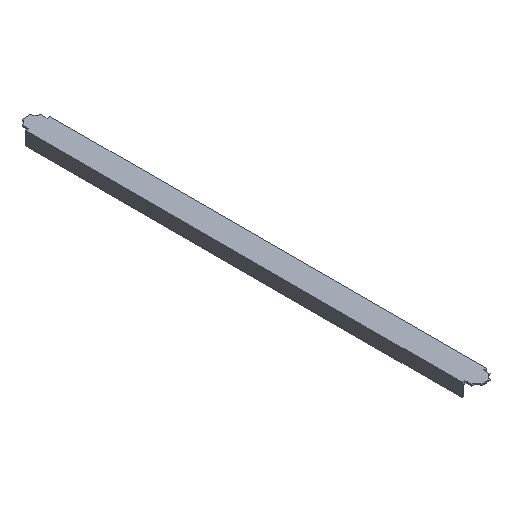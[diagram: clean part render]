
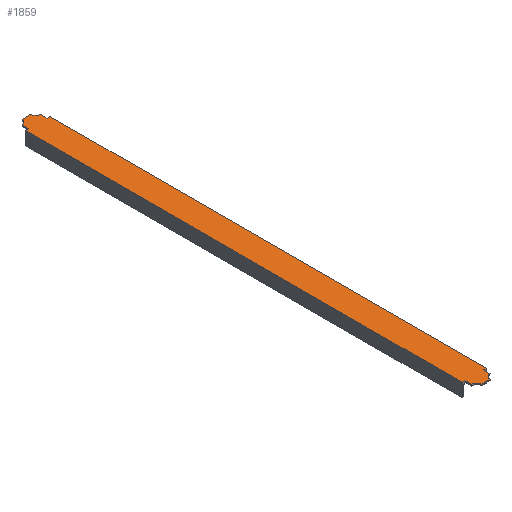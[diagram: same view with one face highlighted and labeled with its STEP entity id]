
A CAD part, isometric view. The second image highlights one B-rep face of the part: STEP entity #1859.
In plain terms, the highlighted planar face has unit normal (0, 0, 1).
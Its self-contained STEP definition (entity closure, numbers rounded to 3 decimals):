
#3 = VERTEX_POINT ( 'NONE', #1360 ) ;
#61 = EDGE_CURVE ( 'NONE', #3127, #3560, #2925, .T. ) ;
#73 = VERTEX_POINT ( 'NONE', #3265 ) ;
#136 = ORIENTED_EDGE ( 'NONE', *, *, #2827, .F. ) ;
#168 = CARTESIAN_POINT ( 'NONE',  ( -38., 15., 1940. ) ) ;
#196 = DIRECTION ( 'NONE',  ( 0., -1., 0. ) ) ;
#199 = CARTESIAN_POINT ( 'NONE',  ( -28., 1895., 1940. ) ) ;
#223 = DIRECTION ( 'NONE',  ( 0., 0., 1. ) ) ;
#245 = CARTESIAN_POINT ( 'NONE',  ( -50., 1848., 1940. ) ) ;
#251 = EDGE_CURVE ( 'NONE', #3018, #836, #3208, .T. ) ;
#269 = AXIS2_PLACEMENT_3D ( 'NONE', #3161, #1548, #2607 ) ;
#302 = LINE ( 'NONE', #3355, #2238 ) ;
#334 = CIRCLE ( 'NONE', #2362, 20. ) ;
#344 = ORIENTED_EDGE ( 'NONE', *, *, #3503, .F. ) ;
#371 = ORIENTED_EDGE ( 'NONE', *, *, #1311, .F. ) ;
#375 = ORIENTED_EDGE ( 'NONE', *, *, #1216, .F. ) ;
#411 = LINE ( 'NONE', #2893, #1603 ) ;
#420 = CARTESIAN_POINT ( 'NONE',  ( 38., 1895., 1940. ) ) ;
#431 = LINE ( 'NONE', #1530, #2291 ) ;
#445 = CARTESIAN_POINT ( 'NONE',  ( -50., 1848., 1940. ) ) ;
#450 = VECTOR ( 'NONE', #1568, 1000. ) ;
#451 = EDGE_CURVE ( 'NONE', #1241, #73, #1617, .T. ) ;
#466 = CARTESIAN_POINT ( 'NONE',  ( 28., 5., 1940. ) ) ;
#500 = DIRECTION ( 'NONE',  ( 0., -1., 0. ) ) ;
#508 = ORIENTED_EDGE ( 'NONE', *, *, #61, .F. ) ;
#525 = FACE_OUTER_BOUND ( 'NONE', #2179, .T. ) ;
#526 = LINE ( 'NONE', #739, #2464 ) ;
#558 = VERTEX_POINT ( 'NONE', #1935 ) ;
#588 = VERTEX_POINT ( 'NONE', #3462 ) ;
#623 = EDGE_CURVE ( 'NONE', #1384, #3436, #2354, .T. ) ;
#631 = CARTESIAN_POINT ( 'NONE',  ( -18., 1895., 1940. ) ) ;
#722 = LINE ( 'NONE', #199, #738 ) ;
#730 = LINE ( 'NONE', #168, #1897 ) ;
#738 = VECTOR ( 'NONE', #1295, 1000. ) ;
#739 = CARTESIAN_POINT ( 'NONE',  ( -50., 1900., 1940. ) ) ;
#761 = VERTEX_POINT ( 'NONE', #3461 ) ;
#767 = CARTESIAN_POINT ( 'NONE',  ( 38., 52., 1940. ) ) ;
#795 = ORIENTED_EDGE ( 'NONE', *, *, #1236, .F. ) ;
#812 = CARTESIAN_POINT ( 'NONE',  ( -50., 52., 1940. ) ) ;
#819 = EDGE_CURVE ( 'NONE', #836, #2813, #730, .T. ) ;
#836 = VERTEX_POINT ( 'NONE', #1212 ) ;
#932 = DIRECTION ( 'NONE',  ( 0., -1., 0. ) ) ;
#980 = ORIENTED_EDGE ( 'NONE', *, *, #819, .F. ) ;
#1023 = ORIENTED_EDGE ( 'NONE', *, *, #1614, .T. ) ;
#1079 = CIRCLE ( 'NONE', #2878, 20. ) ;
#1116 = DIRECTION ( 'NONE',  ( -1., 0., 0. ) ) ;
#1152 = CARTESIAN_POINT ( 'NONE',  ( -38., 52., 1940. ) ) ;
#1212 = CARTESIAN_POINT ( 'NONE',  ( -38., 25., 1940. ) ) ;
#1213 = LINE ( 'NONE', #466, #450 ) ;
#1216 = EDGE_CURVE ( 'NONE', #73, #1384, #1829, .T. ) ;
#1236 = EDGE_CURVE ( 'NONE', #558, #3018, #1213, .T. ) ;
#1241 = VERTEX_POINT ( 'NONE', #445 ) ;
#1289 = CARTESIAN_POINT ( 'NONE',  ( -18., 5., 1940. ) ) ;
#1295 = DIRECTION ( 'NONE',  ( 1., 0., 0. ) ) ;
#1311 = EDGE_CURVE ( 'NONE', #3296, #3, #431, .T. ) ;
#1322 = DIRECTION ( 'NONE',  ( 1., 0., 0. ) ) ;
#1360 = CARTESIAN_POINT ( 'NONE',  ( 38., 1848., 1940. ) ) ;
#1383 = VERTEX_POINT ( 'NONE', #812 ) ;
#1384 = VERTEX_POINT ( 'NONE', #1628 ) ;
#1416 = VECTOR ( 'NONE', #2928, 1000. ) ;
#1489 = CARTESIAN_POINT ( 'NONE',  ( -38., 1848., 1940. ) ) ;
#1527 = EDGE_CURVE ( 'NONE', #3, #2760, #302, .T. ) ;
#1530 = CARTESIAN_POINT ( 'NONE',  ( 38., 1885., 1940. ) ) ;
#1537 = ORIENTED_EDGE ( 'NONE', *, *, #3382, .F. ) ;
#1548 = DIRECTION ( 'NONE',  ( 0., 0., 1. ) ) ;
#1553 = DIRECTION ( 'NONE',  ( 0., -1., 0. ) ) ;
#1568 = DIRECTION ( 'NONE',  ( -1., 0., 0. ) ) ;
#1603 = VECTOR ( 'NONE', #932, 1000. ) ;
#1610 = ORIENTED_EDGE ( 'NONE', *, *, #451, .F. ) ;
#1614 = EDGE_CURVE ( 'NONE', #1241, #1383, #526, .T. ) ;
#1617 = LINE ( 'NONE', #245, #2188 ) ;
#1620 = PLANE ( 'NONE',  #2241 ) ;
#1628 = CARTESIAN_POINT ( 'NONE',  ( -38., 1875., 1940. ) ) ;
#1756 = VECTOR ( 'NONE', #500, 1000. ) ;
#1767 = ORIENTED_EDGE ( 'NONE', *, *, #2073, .F. ) ;
#1829 = LINE ( 'NONE', #1489, #1416 ) ;
#1859 = ADVANCED_FACE ( 'NONE', ( #525 ), #1620, .F. ) ;
#1869 = DIRECTION ( 'NONE',  ( 1., 0., 0. ) ) ;
#1897 = VECTOR ( 'NONE', #3497, 1000. ) ;
#1935 = CARTESIAN_POINT ( 'NONE',  ( 18., 5., 1940. ) ) ;
#1962 = DIRECTION ( 'NONE',  ( 0., 0., 1. ) ) ;
#1982 = DIRECTION ( 'NONE',  ( 1., 0., 0. ) ) ;
#1996 = LINE ( 'NONE', #1152, #2808 ) ;
#2068 = CARTESIAN_POINT ( 'NONE',  ( 50., 1848., 1940. ) ) ;
#2073 = EDGE_CURVE ( 'NONE', #2760, #588, #411, .T. ) ;
#2114 = AXIS2_PLACEMENT_3D ( 'NONE', #2462, #1962, #3040 ) ;
#2139 = LINE ( 'NONE', #3550, #3447 ) ;
#2163 = EDGE_CURVE ( 'NONE', #588, #3127, #2139, .T. ) ;
#2179 = EDGE_LOOP ( 'NONE', ( #136, #3419, #375, #1610, #1023, #2987, #980, #3075, #795, #1537, #508, #3151, #1767, #3360, #371, #344 ) ) ;
#2188 = VECTOR ( 'NONE', #1869, 1000. ) ;
#2220 = EDGE_CURVE ( 'NONE', #2813, #1383, #1996, .T. ) ;
#2238 = VECTOR ( 'NONE', #1982, 1000. ) ;
#2241 = AXIS2_PLACEMENT_3D ( 'NONE', #2724, #2455, #3556 ) ;
#2291 = VECTOR ( 'NONE', #1553, 1000. ) ;
#2354 = CIRCLE ( 'NONE', #269, 20. ) ;
#2362 = AXIS2_PLACEMENT_3D ( 'NONE', #420, #2396, #3278 ) ;
#2396 = DIRECTION ( 'NONE',  ( 0., 0., 1. ) ) ;
#2455 = DIRECTION ( 'NONE',  ( 0., 0., -1. ) ) ;
#2462 = CARTESIAN_POINT ( 'NONE',  ( -38., 5., 1940. ) ) ;
#2464 = VECTOR ( 'NONE', #196, 1000. ) ;
#2607 = DIRECTION ( 'NONE',  ( 1., 0., 0. ) ) ;
#2677 = CARTESIAN_POINT ( 'NONE',  ( -38., 52., 1940. ) ) ;
#2724 = CARTESIAN_POINT ( 'NONE',  ( 50., 1900., 1940. ) ) ;
#2760 = VERTEX_POINT ( 'NONE', #2068 ) ;
#2808 = VECTOR ( 'NONE', #1116, 1000. ) ;
#2813 = VERTEX_POINT ( 'NONE', #2677 ) ;
#2827 = EDGE_CURVE ( 'NONE', #3436, #761, #722, .T. ) ;
#2878 = AXIS2_PLACEMENT_3D ( 'NONE', #3266, #223, #1322 ) ;
#2893 = CARTESIAN_POINT ( 'NONE',  ( 50., 1900., 1940. ) ) ;
#2925 = LINE ( 'NONE', #767, #1756 ) ;
#2928 = DIRECTION ( 'NONE',  ( 0., 1., 0. ) ) ;
#2987 = ORIENTED_EDGE ( 'NONE', *, *, #2220, .F. ) ;
#3018 = VERTEX_POINT ( 'NONE', #1289 ) ;
#3040 = DIRECTION ( 'NONE',  ( 1., 0., 0. ) ) ;
#3075 = ORIENTED_EDGE ( 'NONE', *, *, #251, .F. ) ;
#3127 = VERTEX_POINT ( 'NONE', #3334 ) ;
#3151 = ORIENTED_EDGE ( 'NONE', *, *, #2163, .F. ) ;
#3161 = CARTESIAN_POINT ( 'NONE',  ( -38., 1895., 1940. ) ) ;
#3208 = CIRCLE ( 'NONE', #2114, 20. ) ;
#3265 = CARTESIAN_POINT ( 'NONE',  ( -38., 1848., 1940. ) ) ;
#3266 = CARTESIAN_POINT ( 'NONE',  ( 38., 5., 1940. ) ) ;
#3278 = DIRECTION ( 'NONE',  ( 1., 0., 0. ) ) ;
#3292 = DIRECTION ( 'NONE',  ( -1., 0., 0. ) ) ;
#3296 = VERTEX_POINT ( 'NONE', #3439 ) ;
#3334 = CARTESIAN_POINT ( 'NONE',  ( 38., 52., 1940. ) ) ;
#3355 = CARTESIAN_POINT ( 'NONE',  ( 38., 1848., 1940. ) ) ;
#3360 = ORIENTED_EDGE ( 'NONE', *, *, #1527, .F. ) ;
#3382 = EDGE_CURVE ( 'NONE', #3560, #558, #1079, .T. ) ;
#3419 = ORIENTED_EDGE ( 'NONE', *, *, #623, .F. ) ;
#3436 = VERTEX_POINT ( 'NONE', #631 ) ;
#3439 = CARTESIAN_POINT ( 'NONE',  ( 38., 1875., 1940. ) ) ;
#3447 = VECTOR ( 'NONE', #3292, 1000. ) ;
#3461 = CARTESIAN_POINT ( 'NONE',  ( 18., 1895., 1940. ) ) ;
#3462 = CARTESIAN_POINT ( 'NONE',  ( 50., 52., 1940. ) ) ;
#3497 = DIRECTION ( 'NONE',  ( 0., 1., 0. ) ) ;
#3503 = EDGE_CURVE ( 'NONE', #761, #3296, #334, .T. ) ;
#3511 = CARTESIAN_POINT ( 'NONE',  ( 38., 25., 1940. ) ) ;
#3550 = CARTESIAN_POINT ( 'NONE',  ( 50., 52., 1940. ) ) ;
#3556 = DIRECTION ( 'NONE',  ( -1., 0., 0. ) ) ;
#3560 = VERTEX_POINT ( 'NONE', #3511 ) ;
